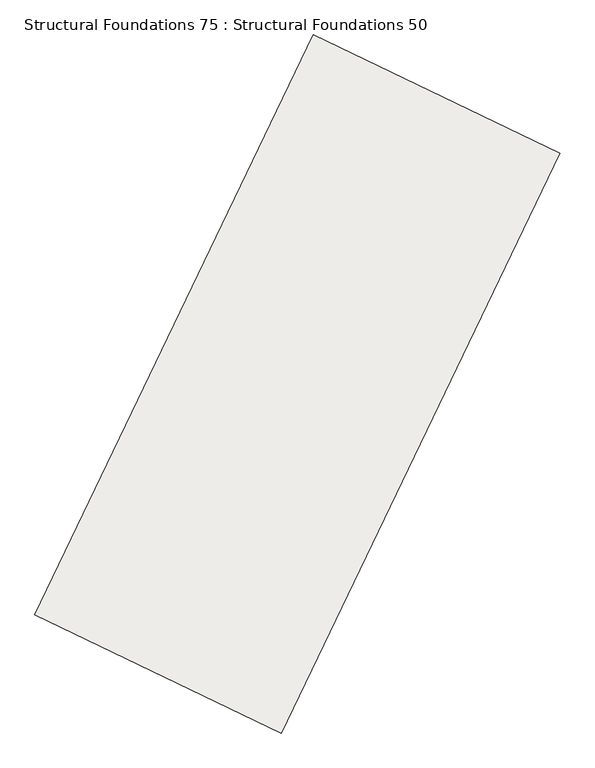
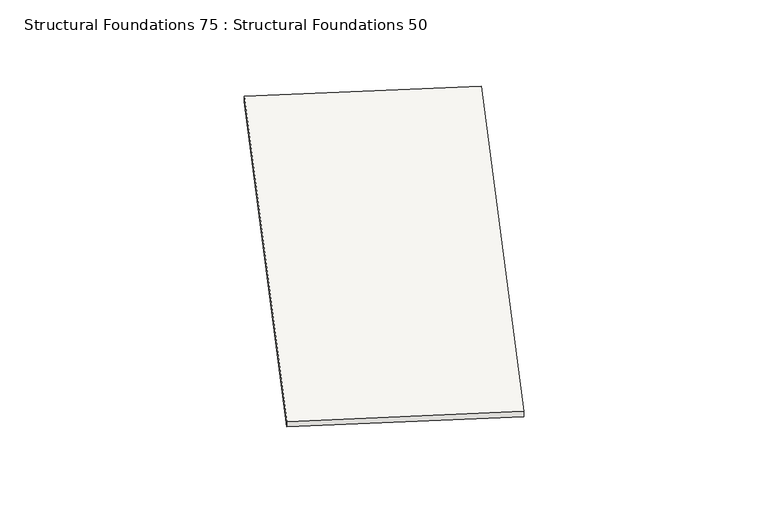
"""IFC4 building model written with IfcOpenShell, lengths in millimetres: slab geometry, Structural Foundations 75 : Structural Foundations 50."""

import ifcopenshell
import ifcopenshell.guid

model = None  # the IFC model being written
_history = None  # IfcOwnerHistory: only IFC2X3 demands one
_inside = {}  # id of a spatial element -> (the spatial element, [elements in it])
_under = {}  # id of a project, library or spatial element -> (it, [spatial elements below it])
_declared = {}  # id of a project -> (the project, [libraries it declares])
_typed = {}  # id of a type object -> (the type object, [elements of that type])
_made_of = {}  # id of a material, layer set ... -> (it, [elements and type objects made of it])


def new_model(schema):
    """Start an empty IFC model of exactly this schema.

    Asked for "IFC4X3", IfcOpenShell would pick the latest addendum, in which some entities
    have other attributes; the version numbers below select the first issue.
    IFC2X3 requires an IfcOwnerHistory on every rooted entity: one is made here for all.
    """
    global model, _history
    if schema == "IFC4X3":
        model = ifcopenshell.file(schema_version=(4, 3, 0, 0))
    else:
        model = ifcopenshell.file(schema=schema)
    _inside.clear()
    _under.clear()
    _declared.clear()
    _typed.clear()
    _made_of.clear()
    _history = None
    if model.schema == "IFC2X3":
        org = make("IfcOrganization", Name="unknown")
        user = make(
            "IfcPersonAndOrganization",
            ThePerson=make("IfcPerson", FamilyName="unknown"),
            TheOrganization=org,
        )
        app = make(
            "IfcApplication",
            ApplicationDeveloper=org,
            Version="unknown",
            ApplicationFullName="unknown",
            ApplicationIdentifier="unknown",
        )
        _history = make(
            "IfcOwnerHistory",
            OwningUser=user,
            OwningApplication=app,
            ChangeAction="ADDED",
            CreationDate=0,
        )
    return model


def make(cls, **values):
    """One entity of the class cls with the attributes given. An attribute that is None is left unset."""
    return model.create_entity(
        cls, **{name: value for name, value in values.items() if value is not None}
    )


def rooted(cls, **values):
    """An entity with a GlobalId (a new one), such as an element, a storey or a relation."""
    return make(cls, GlobalId=ifcopenshell.guid.new(), OwnerHistory=_history, **values)


def si_unit(unit_type, name, prefix=None):
    """IfcSIUnit, for example si_unit("LENGTHUNIT", "METRE", prefix="MILLI")."""
    return make("IfcSIUnit", UnitType=unit_type, Prefix=prefix, Name=name)


def assignment(units):
    """IfcUnitAssignment: the units of a project."""
    return None if units is None else make("IfcUnitAssignment", Units=units)


def point(xyz):
    """IfcCartesianPoint."""
    return None if xyz is None else make("IfcCartesianPoint", Coordinates=xyz)


def direction(xyz):
    """IfcDirection."""
    return None if xyz is None else make("IfcDirection", DirectionRatios=xyz)


def frame(location, z_axis=None, x_axis=None):
    """IfcAxis2Placement3D, a coordinate frame: its origin and axes. An axis left out is left unset."""
    return make(
        "IfcAxis2Placement3D",
        Location=point(location),
        Axis=direction(z_axis),
        RefDirection=direction(x_axis),
    )


def origin():
    """The frame at (0, 0, 0) with its axes left unset."""
    return frame((0.0, 0.0, 0.0))


def place(relative_to, where):
    """IfcLocalPlacement: puts the frame where relative to a parent placement (None: the world)."""
    return make(
        "IfcLocalPlacement", PlacementRelTo=relative_to, RelativePlacement=where
    )


def context(
    kind, dimensions, precision=None, world=None, true_north=None, identifier=None
):
    """IfcGeometricRepresentationContext, for example the 3D "Model" context."""
    return make(
        "IfcGeometricRepresentationContext",
        ContextIdentifier=identifier,
        ContextType=kind,
        CoordinateSpaceDimension=dimensions,
        Precision=precision,
        WorldCoordinateSystem=world,
        TrueNorth=true_north,
    )


def project(units=None, contexts=None):
    """IfcProject with its units and contexts."""
    return rooted(
        "IfcProject",
        Name="project",
        RepresentationContexts=contexts,
        UnitsInContext=assignment(units),
    )


def spatial(cls, under=None, at=None, **own):
    """A site, building, storey or space (cls), placed at a placement, below another one or the project."""
    s = rooted(cls, ObjectPlacement=at, **own)
    if under is not None:
        _under.setdefault(under.id(), (under, []))[1].append(s)
    return s


def faces_of(points, faces, orient=None, outer=None):
    """IfcFace entities. A face is a list of loops; a loop is a list of indices into points, from 0.

    orient and outer hold one flag for each loop. By default every Orientation is true, the
    first loop of a face is its IfcFaceOuterBound and the others are IfcFaceBound.
    """
    made = []
    for i, loops in enumerate(faces):
        bounds = []
        for j, loop in enumerate(loops):
            is_outer = j == 0 if outer is None else outer[i][j]
            bounds.append(
                make(
                    "IfcFaceOuterBound" if is_outer else "IfcFaceBound",
                    Bound=make("IfcPolyLoop", Polygon=[points[k] for k in loop]),
                    Orientation=True if orient is None else orient[i][j],
                )
            )
        made.append(make("IfcFace", Bounds=bounds))
    return made


def faceted_brep(points, faces, orient=None, outer=None, voids=None):
    """IfcFacetedBrep: a solid bounded by flat faces; with voids (closed shells), ...WithVoids."""
    shared = [point(p) for p in points]
    hull = make("IfcClosedShell", CfsFaces=faces_of(shared, faces, orient, outer))
    if voids is None:
        return make("IfcFacetedBrep", Outer=hull)
    return make(
        "IfcFacetedBrepWithVoids",
        Outer=hull,
        Voids=[
            make(cls, CfsFaces=faces_of(shared, fs, o, b)) for cls, fs, o, b in voids
        ],
    )


def shape(context_of_items, identifier, shape_type, items):
    """IfcShapeRepresentation: the items that make up one representation, for example the "Body"."""
    return make(
        "IfcShapeRepresentation",
        ContextOfItems=context_of_items,
        RepresentationIdentifier=identifier,
        RepresentationType=shape_type,
        Items=items,
    )


def source(mapping_origin, context_of_items, identifier, shape_type, items):
    """IfcRepresentationMap: a shape defined once, which mapped items show again and again."""
    return make(
        "IfcRepresentationMap",
        MappingOrigin=mapping_origin,
        MappedRepresentation=shape(context_of_items, identifier, shape_type, items),
    )


def transform(
    local_origin,
    x_axis=None,
    y_axis=None,
    z_axis=None,
    scale=None,
    scale2=None,
    scale3=None,
    uniform=True,
):
    """IfcCartesianTransformationOperator3D, or its non-uniform kind. x_axis, y_axis, z_axis: its Axis1, 2, 3."""
    if uniform:
        return make(
            "IfcCartesianTransformationOperator3D",
            Axis1=direction(x_axis),
            Axis2=direction(y_axis),
            LocalOrigin=point(local_origin),
            Scale=scale,
            Axis3=direction(z_axis),
        )
    return make(
        "IfcCartesianTransformationOperator3DnonUniform",
        Axis1=direction(x_axis),
        Axis2=direction(y_axis),
        LocalOrigin=point(local_origin),
        Scale=scale,
        Axis3=direction(z_axis),
        Scale2=scale2,
        Scale3=scale3,
    )


def mapped(mapping_source, mapping_target):
    """IfcMappedItem: shows the shape of a source again, moved by a transform."""
    return make(
        "IfcMappedItem", MappingSource=mapping_source, MappingTarget=mapping_target
    )


def made_of(thing, what):
    """Note that an element or type object is made of a material, layer set ...; save() writes the relation."""
    if what is not None:
        _made_of.setdefault(what.id(), (what, []))[1].append(thing)
    return thing


def element(
    cls,
    number,
    at=None,
    inside=None,
    cuts=None,
    type_object=None,
    material=None,
    context=None,
    identifier="Body",
    shape_type=None,
    held_by="IfcProductDefinitionShape",
    body=None,
    shapes=None,
    **own,
):
    """One element of the class cls, such as IfcWall. Its Tag is "e" and its number.

    at: its placement. inside: the storey or other place that contains it. cuts: it is an
    opening in that element (IfcRelVoidsElement). A single representation is given by context,
    identifier, shape_type and body (its items); several are given by shapes. held_by: the class
    of the entity that holds the representations. save() writes the other relations.
    """
    e = rooted(cls, Tag="e%d" % number, ObjectPlacement=at, **own)
    if body is not None:
        shapes = [shape(context, identifier, shape_type, body)]
    if shapes is not None:
        e.Representation = make(held_by, Representations=shapes)
    if inside is not None:
        _inside.setdefault(inside.id(), (inside, []))[1].append(e)
    if cuts is not None:
        rooted(
            "IfcRelVoidsElement", RelatingBuildingElement=cuts, RelatedOpeningElement=e
        )
    if type_object is not None:
        _typed.setdefault(type_object.id(), (type_object, []))[1].append(e)
    return made_of(e, material)


def aggregate(whole, parts):
    """IfcRelAggregates: a whole, such as a stair, and the parts it consists of."""
    return rooted("IfcRelAggregates", RelatingObject=whole, RelatedObjects=parts)


def save(model, path):
    """Write the relations noted so far, then the file.

    IfcRelAggregates (storeys below a building ...), IfcRelContainedInSpatialStructure (elements
    in a storey), IfcRelDefinesByType, IfcRelAssociatesMaterial and IfcRelDeclares: one each for
    every whole, place, type object, material and project.
    """
    for whole, parts in _under.values():
        aggregate(whole, parts)
    for where, things in _inside.values():
        rooted(
            "IfcRelContainedInSpatialStructure",
            RelatedElements=things,
            RelatingStructure=where,
        )
    for kind, things in _typed.values():
        rooted("IfcRelDefinesByType", RelatedObjects=things, RelatingType=kind)
    for what, things in _made_of.values():
        rooted("IfcRelAssociatesMaterial", RelatedObjects=things, RelatingMaterial=what)
    for by, libraries in _declared.values():
        rooted("IfcRelDeclares", RelatingContext=by, RelatedDefinitions=libraries)
    model.write(path)


def structural_foundations_75_structural_foundations_50_ec520b41(model_context):
    return source(origin(), model_context, "Body", "Brep", [
        faceted_brep([(427178.2629257, 367819.3183512, 646212.4193331), (423843.0608926, 369421.305958, 646212.4193331), (423843.0608926, 369421.305958, 646112.4193331), (427178.2629257, 367819.3183512, 646112.4193331), (430944.6200045, 375661.8023122, 646322.4193331), (430944.6200045, 375661.8023122, 646222.4193331), (427609.4179715, 377263.789919, 646222.4193331), (427609.4179715, 377263.789919, 646322.4193331)], [[[0, 1, 2, 3]], [[4, 5, 6, 7]], [[4, 7, 1, 0]], [[7, 6, 2, 1]], [[6, 5, 3, 2]], [[5, 4, 0, 3]]]),
    ])


if __name__ == "__main__":
    model = new_model("IFC4")
    model_context = context("Model", 3, world=origin())
    ifc_project = project(units=[si_unit("LENGTHUNIT", "METRE", prefix="MILLI")], contexts=[model_context])
    site = spatial("IfcSite", under=ifc_project)
    building = spatial("IfcBuilding", under=site)
    placement = place(None, origin())
    structural_foundations_75_structural_foundations_50_shape = structural_foundations_75_structural_foundations_50_ec520b41(model_context)
    element("IfcSlab", 1, ObjectType="Structural Foundations 75 : Structural Foundations 50", at=placement, inside=building, context=model_context, shape_type="MappedRepresentation", body=[
        mapped(structural_foundations_75_structural_foundations_50_shape, transform((0.0, 0.0, 0.0), x_axis=(1.0, 0.0, 0.0), y_axis=(0.0, 1.0, 0.0), z_axis=(0.0, 0.0, 1.0))),
    ])
    save(model, "model.ifc")
